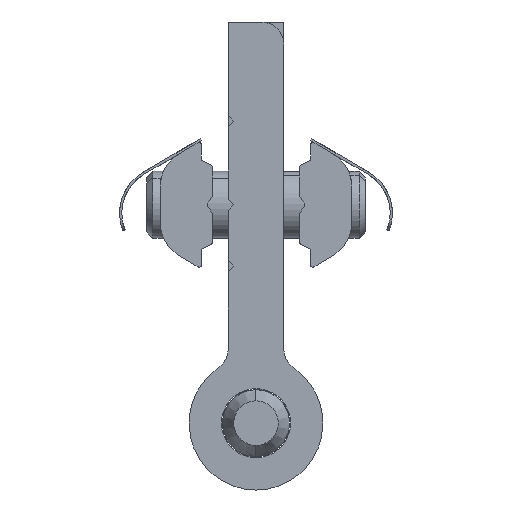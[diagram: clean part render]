
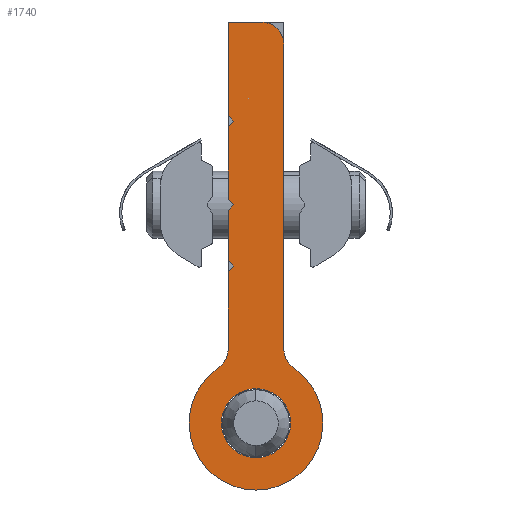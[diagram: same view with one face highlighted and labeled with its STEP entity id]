
A CAD part, left-side view. The second image highlights one B-rep face of the part: STEP entity #1740.
In plain terms, the highlighted planar face has unit normal (-1, 0, 0).
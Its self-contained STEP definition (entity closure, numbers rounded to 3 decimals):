
#81 = CARTESIAN_POINT ( 'NONE',  ( -109.511, 16.6, 17.16 ) ) ;
#273 = VECTOR ( 'NONE', #16093, 1000. ) ;
#333 = DIRECTION ( 'NONE',  ( 0., 0., -1. ) ) ;
#484 = VERTEX_POINT ( 'NONE', #9072 ) ;
#671 = LINE ( 'NONE', #8542, #3196 ) ;
#785 = VERTEX_POINT ( 'NONE', #926 ) ;
#815 = DIRECTION ( 'NONE',  ( 0., -0.707, -0.707 ) ) ;
#892 = EDGE_CURVE ( 'NONE', #25750, #14237, #22605, .T. ) ;
#926 = CARTESIAN_POINT ( 'NONE',  ( -109.511, 22.475, 32.299 ) ) ;
#1060 = VECTOR ( 'NONE', #3502, 1000. ) ;
#1177 = ORIENTED_EDGE ( 'NONE', *, *, #14983, .T. ) ;
#1388 = CARTESIAN_POINT ( 'NONE',  ( -109.511, 17.475, 5.353 ) ) ;
#1516 = PLANE ( 'NONE',  #10820 ) ;
#1740 = ADVANCED_FACE ( 'NONE', ( #6948, #33580 ), #1516, .T. ) ;
#1843 = CARTESIAN_POINT ( 'NONE',  ( -109.511, 22.225, 31.549 ) ) ;
#1987 = CIRCLE ( 'NONE', #21545, 3.1 ) ;
#2198 = LINE ( 'NONE', #1843, #32591 ) ;
#2261 = ORIENTED_EDGE ( 'NONE', *, *, #13347, .T. ) ;
#2422 = VERTEX_POINT ( 'NONE', #4813 ) ;
#2677 = LINE ( 'NONE', #34580, #273 ) ;
#3196 = VECTOR ( 'NONE', #333, 1000. ) ;
#3224 = CARTESIAN_POINT ( 'NONE',  ( -109.511, 22.475, 39.799 ) ) ;
#3382 = DIRECTION ( 'NONE',  ( 0., 0., 1. ) ) ;
#3502 = DIRECTION ( 'NONE',  ( 0., -0.707, -0.707 ) ) ;
#3613 = LINE ( 'NONE', #33593, #7912 ) ;
#3821 = ORIENTED_EDGE ( 'NONE', *, *, #21489, .T. ) ;
#4103 = EDGE_CURVE ( 'NONE', #785, #2422, #27846, .T. ) ;
#4204 = CARTESIAN_POINT ( 'NONE',  ( -109.511, 22.225, 32.049 ) ) ;
#4246 = ORIENTED_EDGE ( 'NONE', *, *, #11336, .T. ) ;
#4335 = VERTEX_POINT ( 'NONE', #81 ) ;
#4684 = CARTESIAN_POINT ( 'NONE',  ( -109.511, 19.475, 46.199 ) ) ;
#4757 = EDGE_LOOP ( 'NONE', ( #3821, #7043 ) ) ;
#4813 = CARTESIAN_POINT ( 'NONE',  ( -109.511, 21.975, 31.799 ) ) ;
#4830 = DIRECTION ( 'NONE',  ( 0., 0., -1. ) ) ;
#5086 = VERTEX_POINT ( 'NONE', #18150 ) ;
#5349 = VERTEX_POINT ( 'NONE', #14606 ) ;
#5353 = EDGE_CURVE ( 'NONE', #484, #9093, #32820, .T. ) ;
#5553 = EDGE_CURVE ( 'NONE', #5349, #33570, #671, .T. ) ;
#5795 = VECTOR ( 'NONE', #25016, 1000. ) ;
#5835 = AXIS2_PLACEMENT_3D ( 'NONE', #32473, #8469, #3382 ) ;
#6097 = CARTESIAN_POINT ( 'NONE',  ( -109.511, 15.475, 18.813 ) ) ;
#6532 = DIRECTION ( 'NONE',  ( 1., 0., 0. ) ) ;
#6719 = CARTESIAN_POINT ( 'NONE',  ( -109.511, 22.225, 26.049 ) ) ;
#6948 = FACE_BOUND ( 'NONE', #4757, .T. ) ;
#7043 = ORIENTED_EDGE ( 'NONE', *, *, #29133, .T. ) ;
#7912 = VECTOR ( 'NONE', #815, 1000. ) ;
#8023 = ORIENTED_EDGE ( 'NONE', *, *, #5553, .T. ) ;
#8076 = VECTOR ( 'NONE', #34366, 1000. ) ;
#8305 = CARTESIAN_POINT ( 'NONE',  ( -109.511, 19.975, 15.299 ) ) ;
#8447 = DIRECTION ( 'NONE',  ( 0., 0., -1. ) ) ;
#8469 = DIRECTION ( 'NONE',  ( 1., 0., 0. ) ) ;
#8542 = CARTESIAN_POINT ( 'NONE',  ( -109.511, 22.475, 5.353 ) ) ;
#8779 = AXIS2_PLACEMENT_3D ( 'NONE', #11972, #25306, #24777 ) ;
#8908 = DIRECTION ( 'NONE',  ( 0., 0., 1. ) ) ;
#9072 = CARTESIAN_POINT ( 'NONE',  ( -109.511, 22.475, 18.813 ) ) ;
#9093 = VERTEX_POINT ( 'NONE', #34538 ) ;
#9187 = EDGE_CURVE ( 'NONE', #33570, #25750, #25188, .T. ) ;
#9332 = EDGE_CURVE ( 'NONE', #4335, #23207, #23112, .T. ) ;
#9520 = LINE ( 'NONE', #16065, #8076 ) ;
#9552 = CARTESIAN_POINT ( 'NONE',  ( -109.511, 19.975, 5.353 ) ) ;
#10214 = ORIENTED_EDGE ( 'NONE', *, *, #30140, .T. ) ;
#10323 = LINE ( 'NONE', #28372, #20191 ) ;
#10820 = AXIS2_PLACEMENT_3D ( 'NONE', #9552, #20187, #25664 ) ;
#11094 = EDGE_CURVE ( 'NONE', #5086, #19605, #10323, .T. ) ;
#11162 = ORIENTED_EDGE ( 'NONE', *, *, #11094, .T. ) ;
#11312 = DIRECTION ( 'NONE',  ( 1., 0., 0. ) ) ;
#11331 = LINE ( 'NONE', #1388, #30944 ) ;
#11336 = EDGE_CURVE ( 'NONE', #15495, #5086, #23056, .T. ) ;
#11519 = VECTOR ( 'NONE', #15756, 1000. ) ;
#11640 = DIRECTION ( 'NONE',  ( 1., 0., 0. ) ) ;
#11665 = DIRECTION ( 'NONE',  ( 0., 0., 1. ) ) ;
#11948 = CIRCLE ( 'NONE', #5835, 6. ) ;
#11972 = CARTESIAN_POINT ( 'NONE',  ( -109.511, 24.475, 18.813 ) ) ;
#12036 = CARTESIAN_POINT ( 'NONE',  ( -109.511, 22.225, 26.549 ) ) ;
#12360 = EDGE_CURVE ( 'NONE', #14237, #484, #2677, .T. ) ;
#12980 = LINE ( 'NONE', #26470, #11519 ) ;
#13043 = EDGE_CURVE ( 'NONE', #28652, #24393, #3613, .T. ) ;
#13347 = EDGE_CURVE ( 'NONE', #29067, #785, #9520, .T. ) ;
#13476 = CARTESIAN_POINT ( 'NONE',  ( -109.511, 22.475, 5.353 ) ) ;
#14237 = VERTEX_POINT ( 'NONE', #22774 ) ;
#14606 = CARTESIAN_POINT ( 'NONE',  ( -109.511, 22.475, 31.299 ) ) ;
#14706 = ORIENTED_EDGE ( 'NONE', *, *, #9332, .T. ) ;
#14983 = EDGE_CURVE ( 'NONE', #24393, #29067, #12980, .T. ) ;
#15084 = ORIENTED_EDGE ( 'NONE', *, *, #5353, .T. ) ;
#15202 = VECTOR ( 'NONE', #8447, 1000. ) ;
#15495 = VERTEX_POINT ( 'NONE', #26718 ) ;
#15756 = DIRECTION ( 'NONE',  ( 0., 0.707, -0.707 ) ) ;
#16065 = CARTESIAN_POINT ( 'NONE',  ( -109.511, 22.475, 5.353 ) ) ;
#16093 = DIRECTION ( 'NONE',  ( 0., 0., -1. ) ) ;
#17194 = EDGE_CURVE ( 'NONE', #2422, #5349, #2198, .T. ) ;
#17440 = AXIS2_PLACEMENT_3D ( 'NONE', #4684, #23225, #25864 ) ;
#17676 = CARTESIAN_POINT ( 'NONE',  ( -109.511, 19.975, 12.199 ) ) ;
#17700 = DIRECTION ( 'NONE',  ( 0., 0.707, -0.707 ) ) ;
#18070 = EDGE_CURVE ( 'NONE', #4335, #9093, #11948, .T. ) ;
#18150 = CARTESIAN_POINT ( 'NONE',  ( -109.511, 19.475, 48.199 ) ) ;
#19269 = LINE ( 'NONE', #13476, #15202 ) ;
#19605 = VERTEX_POINT ( 'NONE', #27619 ) ;
#19691 = CARTESIAN_POINT ( 'NONE',  ( -109.511, 22.475, 26.799 ) ) ;
#20187 = DIRECTION ( 'NONE',  ( -1., 0., 0. ) ) ;
#20191 = VECTOR ( 'NONE', #20449, 1000. ) ;
#20297 = AXIS2_PLACEMENT_3D ( 'NONE', #6097, #11640, #4830 ) ;
#20449 = DIRECTION ( 'NONE',  ( 0., 1., 0. ) ) ;
#20602 = EDGE_CURVE ( 'NONE', #23207, #15495, #11331, .T. ) ;
#20628 = ORIENTED_EDGE ( 'NONE', *, *, #9187, .T. ) ;
#21161 = ORIENTED_EDGE ( 'NONE', *, *, #892, .T. ) ;
#21489 = EDGE_CURVE ( 'NONE', #27993, #33746, #1987, .T. ) ;
#21545 = AXIS2_PLACEMENT_3D ( 'NONE', #17676, #6532, #33131 ) ;
#21564 = VECTOR ( 'NONE', #17700, 1000. ) ;
#21850 = AXIS2_PLACEMENT_3D ( 'NONE', #27609, #11312, #11665 ) ;
#22605 = LINE ( 'NONE', #6719, #21564 ) ;
#22774 = CARTESIAN_POINT ( 'NONE',  ( -109.511, 22.475, 25.799 ) ) ;
#22981 = EDGE_LOOP ( 'NONE', ( #31337, #8023, #20628, #21161, #31015, #15084, #28507, #14706, #32025, #4246, #11162, #10214, #34174, #1177, #2261, #30021 ) ) ;
#23056 = CIRCLE ( 'NONE', #17440, 2. ) ;
#23112 = CIRCLE ( 'NONE', #20297, 2. ) ;
#23207 = VERTEX_POINT ( 'NONE', #33363 ) ;
#23225 = DIRECTION ( 'NONE',  ( -1., 0., 0. ) ) ;
#24366 = CARTESIAN_POINT ( 'NONE',  ( -109.511, 21.975, 26.299 ) ) ;
#24393 = VERTEX_POINT ( 'NONE', #33077 ) ;
#24777 = DIRECTION ( 'NONE',  ( 0., 0., 1. ) ) ;
#25016 = DIRECTION ( 'NONE',  ( 0., -0.707, -0.707 ) ) ;
#25167 = CARTESIAN_POINT ( 'NONE',  ( -109.511, 22.475, 38.799 ) ) ;
#25188 = LINE ( 'NONE', #12036, #5795 ) ;
#25306 = DIRECTION ( 'NONE',  ( 1., 0., 0. ) ) ;
#25664 = DIRECTION ( 'NONE',  ( 0., 0., 1. ) ) ;
#25750 = VERTEX_POINT ( 'NONE', #24366 ) ;
#25864 = DIRECTION ( 'NONE',  ( 0., 0., 1. ) ) ;
#26163 = DIRECTION ( 'NONE',  ( 0., 0.707, -0.707 ) ) ;
#26470 = CARTESIAN_POINT ( 'NONE',  ( -109.511, 22.225, 39.049 ) ) ;
#26718 = CARTESIAN_POINT ( 'NONE',  ( -109.511, 17.475, 46.199 ) ) ;
#27609 = CARTESIAN_POINT ( 'NONE',  ( -109.511, 19.975, 12.199 ) ) ;
#27619 = CARTESIAN_POINT ( 'NONE',  ( -109.511, 22.475, 48.199 ) ) ;
#27846 = LINE ( 'NONE', #4204, #1060 ) ;
#27993 = VERTEX_POINT ( 'NONE', #8305 ) ;
#28372 = CARTESIAN_POINT ( 'NONE',  ( -109.511, 19.975, 48.199 ) ) ;
#28507 = ORIENTED_EDGE ( 'NONE', *, *, #18070, .F. ) ;
#28652 = VERTEX_POINT ( 'NONE', #3224 ) ;
#28826 = CARTESIAN_POINT ( 'NONE',  ( -109.511, 19.975, 9.099 ) ) ;
#29067 = VERTEX_POINT ( 'NONE', #25167 ) ;
#29133 = EDGE_CURVE ( 'NONE', #33746, #27993, #33053, .T. ) ;
#30021 = ORIENTED_EDGE ( 'NONE', *, *, #4103, .T. ) ;
#30140 = EDGE_CURVE ( 'NONE', #19605, #28652, #19269, .T. ) ;
#30944 = VECTOR ( 'NONE', #8908, 1000. ) ;
#31015 = ORIENTED_EDGE ( 'NONE', *, *, #12360, .T. ) ;
#31337 = ORIENTED_EDGE ( 'NONE', *, *, #17194, .T. ) ;
#32025 = ORIENTED_EDGE ( 'NONE', *, *, #20602, .T. ) ;
#32473 = CARTESIAN_POINT ( 'NONE',  ( -109.511, 19.975, 12.199 ) ) ;
#32591 = VECTOR ( 'NONE', #26163, 1000. ) ;
#32820 = CIRCLE ( 'NONE', #8779, 2. ) ;
#33053 = CIRCLE ( 'NONE', #21850, 3.1 ) ;
#33077 = CARTESIAN_POINT ( 'NONE',  ( -109.511, 21.975, 39.299 ) ) ;
#33131 = DIRECTION ( 'NONE',  ( 0., 0., 1. ) ) ;
#33363 = CARTESIAN_POINT ( 'NONE',  ( -109.511, 17.475, 18.813 ) ) ;
#33570 = VERTEX_POINT ( 'NONE', #19691 ) ;
#33580 = FACE_OUTER_BOUND ( 'NONE', #22981, .T. ) ;
#33593 = CARTESIAN_POINT ( 'NONE',  ( -109.511, 22.225, 39.549 ) ) ;
#33746 = VERTEX_POINT ( 'NONE', #28826 ) ;
#34174 = ORIENTED_EDGE ( 'NONE', *, *, #13043, .T. ) ;
#34366 = DIRECTION ( 'NONE',  ( 0., 0., -1. ) ) ;
#34538 = CARTESIAN_POINT ( 'NONE',  ( -109.511, 23.35, 17.16 ) ) ;
#34580 = CARTESIAN_POINT ( 'NONE',  ( -109.511, 22.475, 5.353 ) ) ;
